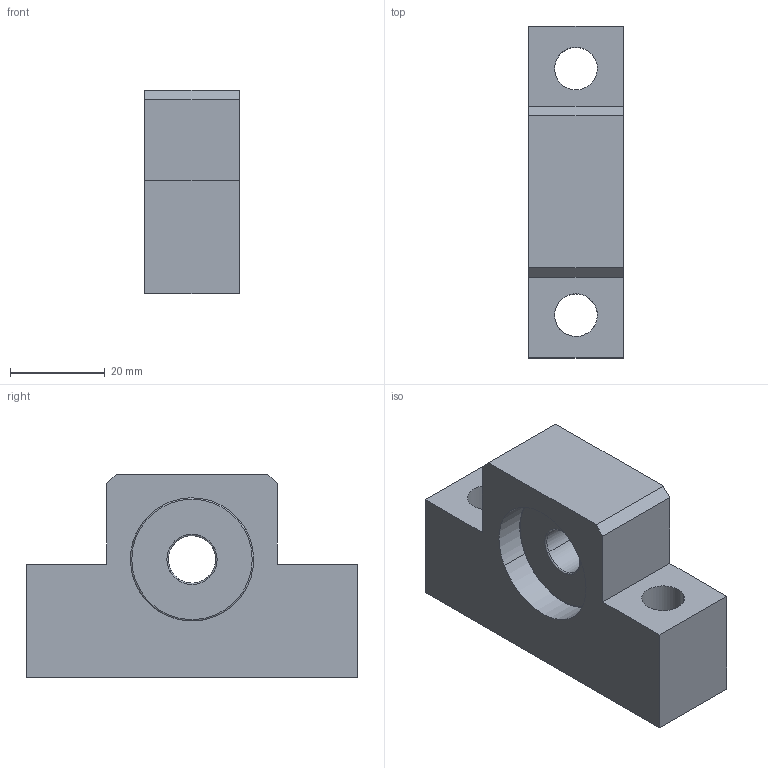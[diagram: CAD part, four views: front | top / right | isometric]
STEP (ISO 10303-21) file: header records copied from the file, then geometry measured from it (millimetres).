
FILE_DESCRIPTION(('CATIA V5 STEP Exchange'),'2;1');
FILE_NAME('D:\서포트 완성도면\EF\EF12.stp','2014-02-05T10:37:32+00:00',('none'),('none'),'CATIA Version 5 Release 18 GA (IN-10)','CATIA V5 STEP AP203','none');
FILE_SCHEMA(('CONFIG_CONTROL_DESIGN'));
Length unit declared in the file: millimetre
Products named in the file (1): EF12
Assembly tree (2 placements, depth 2):
  EF12
    #56
    #796
Bounding box: 20 x 70 x 43 mm (x, y, z)
Volume: 37142.5 mm3; surface area: 12648 mm2
Topology: 2 solids, 2 shells, 36 faces, 88 edges, 56 vertices
Faces by surface type: plane 14, torus 12, cylinder 10
Entity records: 1409 total; most frequent: CARTESIAN_POINT 504, ORIENTED_EDGE 176, DIRECTION 148, EDGE_CURVE 88, AXIS2_PLACEMENT_3D 69, VERTEX_POINT 56, EDGE_LOOP 44, VECTOR 40
